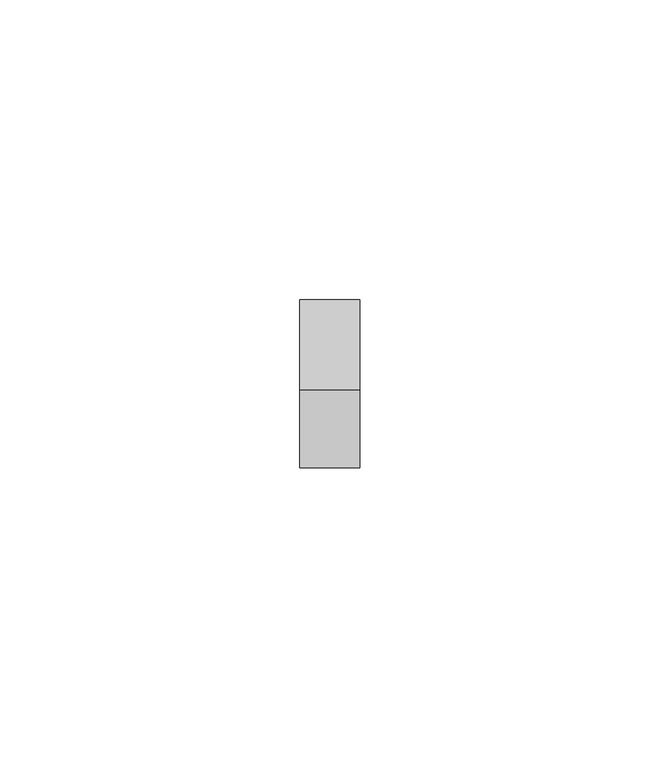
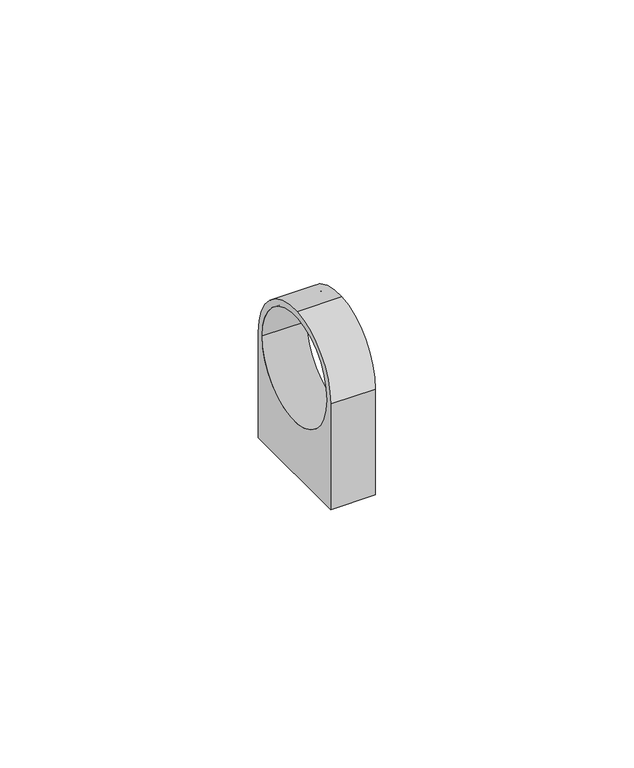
"""IFC4 building model written with IfcOpenShell, lengths in millimetres: cable carrier fitting geometry, Хомутный держатель CFC : CTA10D-CFC25-K41-100."""

from ifc_helpers import new_model, si_unit, point, frame, origin, origin_2d, place, context, project, spatial, polyline, circle_curve, trimmed, segment, composite_curve, outline, extrude, source, transform, mapped, element, save


def cable_carrier_fitting_1b7fa4f3(model_context):
    return source(origin(), model_context, "Body", "SweptSolid", [
        extrude(outline(composite_curve([segment(polyline([(-14.0, -25.0), (-14.0, 0.0)]), True, "CONTINUOUS"), segment(trimmed(circle_curve(origin_2d(), 14.0), [point((-14.0, 0.0))], [point((-1.0483988, 13.9606898))], False, "CARTESIAN"), True, "CONTINUOUS"), segment(trimmed(circle_curve(origin_2d(), 14.0), [point((-1.0483988, 13.9606898))], [point((14.0, 0.0))], False, "CARTESIAN"), True, "CONTINUOUS"), segment(polyline([(14.0, 0.0), (14.0, -25.0), (-14.0, -25.0)]), True, "CONTINUOUS")], self_intersect=False), holes=[composite_curve([segment(trimmed(circle_curve(origin_2d(), 12.5), [point((-12.5, 0.0))], [point((12.5, 0.0))], True, "CARTESIAN"), True, "CONTINUOUS"), segment(trimmed(circle_curve(origin_2d(), 12.5), [point((12.5, 0.0))], [point((-12.5, 0.0))], True, "CARTESIAN"), True, "CONTINUOUS")], self_intersect=False)]), frame((-5.0, 0.0, 0.0), z_axis=(1.0, 0.0, 0.0), x_axis=(0.0, 1.0, 0.0)), (0.0, 0.0, 1.0), 10.0),
    ])


if __name__ == "__main__":
    model = new_model("IFC4")
    model_context = context("Model", 3, world=origin())
    ifc_project = project(units=[si_unit("LENGTHUNIT", "METRE", prefix="MILLI")], contexts=[model_context])
    site = spatial("IfcSite", under=ifc_project)
    building = spatial("IfcBuilding", under=site)
    placement = place(None, origin())
    cable_carrier_fitting_shape = cable_carrier_fitting_1b7fa4f3(model_context)
    element("IfcCableCarrierFitting", 1, ObjectType="Хомутный держатель CFC : CTA10D-CFC25-K41-100", at=placement, inside=building, context=model_context, shape_type="MappedRepresentation", body=[
        mapped(cable_carrier_fitting_shape, transform((0.0, 0.0, 0.0), x_axis=(1.0, 0.0, 0.0), y_axis=(0.0, 1.0, 0.0), z_axis=(0.0, 0.0, 1.0))),
    ])
    save(model, "model.ifc")
